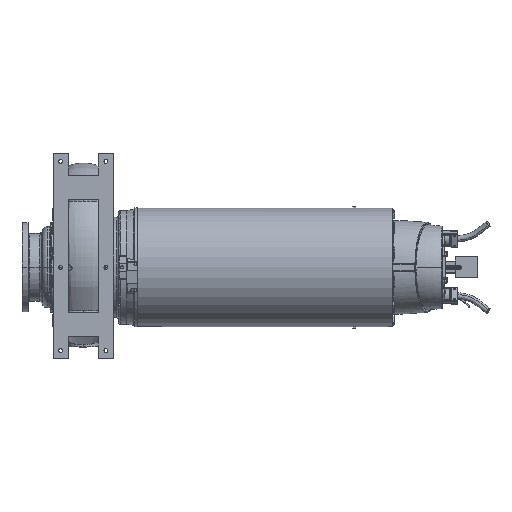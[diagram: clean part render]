
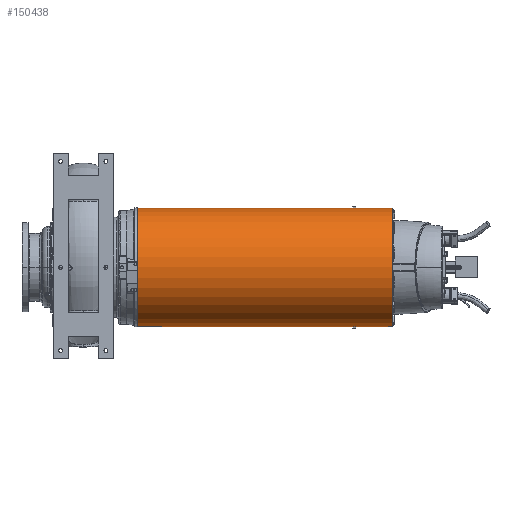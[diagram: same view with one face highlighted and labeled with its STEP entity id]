
A CAD part, front view. The second image highlights one B-rep face of the part: STEP entity #150438.
In plain terms, the highlighted cylindrical face has radius 391.5 mm (diameter 783 mm), a partial arc.
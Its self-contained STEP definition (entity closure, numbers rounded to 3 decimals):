
#7356 = FACE_OUTER_BOUND ( 'NONE', #38063, .T. ) ;
#10005 = DIRECTION ( 'NONE',  ( 0., 0., -1. ) ) ;
#12224 =( BOUNDED_CURVE ( )  B_SPLINE_CURVE ( 3, ( #15671, #179416, #13924, #13607 ),
 .UNSPECIFIED., .F., .F. ) 
 B_SPLINE_CURVE_WITH_KNOTS ( ( 4, 4 ),
 ( 1.547, 1.571 ),
 .UNSPECIFIED. ) 
 CURVE ( )  GEOMETRIC_REPRESENTATION_ITEM ( )  RATIONAL_B_SPLINE_CURVE ( ( 1., 1., 1., 1. ) ) 
 REPRESENTATION_ITEM ( '' )  );
#12711 = DIRECTION ( 'NONE',  ( -1., 0., 0. ) ) ;
#13607 = CARTESIAN_POINT ( 'NONE',  ( 1780.53, 0., -391.5 ) ) ;
#13924 = CARTESIAN_POINT ( 'NONE',  ( 1782.359, -3.167, -391.5 ) ) ;
#14438 = CARTESIAN_POINT ( 'NONE',  ( 2181.849, -9.5, -391.385 ) ) ;
#15671 = CARTESIAN_POINT ( 'NONE',  ( 1786.015, -9.5, -391.385 ) ) ;
#16206 = CARTESIAN_POINT ( 'NONE',  ( 2181.849, 0., 391.5 ) ) ;
#18934 = DIRECTION ( 'NONE',  ( -1., 0., 0. ) ) ;
#22973 = VERTEX_POINT ( 'NONE', #55178 ) ;
#26745 = EDGE_CURVE ( 'NONE', #50700, #27357, #88676, .T. ) ;
#27357 = VERTEX_POINT ( 'NONE', #250432 ) ;
#28891 = EDGE_CURVE ( 'NONE', #91911, #42572, #149285, .T. ) ;
#31915 = CARTESIAN_POINT ( 'NONE',  ( 2181.849, -9.5, 391.385 ) ) ;
#31970 = EDGE_CURVE ( 'NONE', #120751, #27357, #12224, .T. ) ;
#32008 = EDGE_CURVE ( 'NONE', #42572, #120751, #114867, .T. ) ;
#36693 = EDGE_CURVE ( 'NONE', #206291, #221980, #249379, .T. ) ;
#36915 = DIRECTION ( 'NONE',  ( 1., 0., 0. ) ) ;
#37943 = EDGE_CURVE ( 'NONE', #221980, #22973, #42613, .T. ) ;
#38063 = EDGE_LOOP ( 'NONE', ( #84324, #90762, #94091, #100549, #102899, #108876, #110668, #116795, #118699, #123960, #127608, #134852 ) ) ;
#38714 = EDGE_CURVE ( 'NONE', #22973, #210901, #61661, .T. ) ;
#40269 = EDGE_CURVE ( 'NONE', #107310, #206222, #178193, .T. ) ;
#40392 = CARTESIAN_POINT ( 'NONE',  ( 357.5, 0., 391.5 ) ) ;
#40548 = CARTESIAN_POINT ( 'NONE',  ( 2181.849, 0., 391.5 ) ) ;
#40589 = CARTESIAN_POINT ( 'NONE',  ( 2041.5, 0., -391.5 ) ) ;
#42129 = VECTOR ( 'NONE', #18934, 1000. ) ;
#42572 = VERTEX_POINT ( 'NONE', #217408 ) ;
#42613 = LINE ( 'NONE', #31915, #42129 ) ;
#43654 = LINE ( 'NONE', #76371, #43711 ) ;
#43711 = VECTOR ( 'NONE', #76695, 1000. ) ;
#46192 = EDGE_CURVE ( 'NONE', #91911, #206222, #43654, .T. ) ;
#46731 = LINE ( 'NONE', #40548, #233097 ) ;
#50278 = CARTESIAN_POINT ( 'NONE',  ( 357.5, 0., -391.5 ) ) ;
#50700 = VERTEX_POINT ( 'NONE', #50278 ) ;
#55178 = CARTESIAN_POINT ( 'NONE',  ( 1786.015, -9.5, 391.385 ) ) ;
#58671 = DIRECTION ( 'NONE',  ( 0., 0., -1. ) ) ;
#58974 = DIRECTION ( 'NONE',  ( 1., 0., 0. ) ) ;
#59217 = CARTESIAN_POINT ( 'NONE',  ( 1796.985, -9.5, -391.385 ) ) ;
#59234 = CARTESIAN_POINT ( 'NONE',  ( 2041.5, 0., 0. ) ) ;
#59533 = CARTESIAN_POINT ( 'NONE',  ( 1802.47, 0., -391.5 ) ) ;
#59778 = CARTESIAN_POINT ( 'NONE',  ( 1798.813, -6.334, -391.462 ) ) ;
#59862 = CARTESIAN_POINT ( 'NONE',  ( 1800.641, -3.167, -391.5 ) ) ;
#61661 =( BOUNDED_CURVE ( )  B_SPLINE_CURVE ( 3, ( #231321, #231892, #230689, #230491 ),
 .UNSPECIFIED., .F., .F. ) 
 B_SPLINE_CURVE_WITH_KNOTS ( ( 4, 4 ),
 ( 1.547, 1.571 ),
 .UNSPECIFIED. ) 
 CURVE ( )  GEOMETRIC_REPRESENTATION_ITEM ( )  RATIONAL_B_SPLINE_CURVE ( ( 1., 1., 1., 1. ) ) 
 REPRESENTATION_ITEM ( '' )  );
#64189 = CARTESIAN_POINT ( 'NONE',  ( 2181.849, 0., -391.5 ) ) ;
#64222 = DIRECTION ( 'NONE',  ( 1., 0., 0. ) ) ;
#76371 = CARTESIAN_POINT ( 'NONE',  ( 2181.849, 0., -391.5 ) ) ;
#76695 = DIRECTION ( 'NONE',  ( 1., 0., 0. ) ) ;
#84324 = ORIENTED_EDGE ( 'NONE', *, *, #149412, .F. ) ;
#86955 = CARTESIAN_POINT ( 'NONE',  ( 1780.53, 0., 391.5 ) ) ;
#88676 = LINE ( 'NONE', #64189, #200617 ) ;
#90762 = ORIENTED_EDGE ( 'NONE', *, *, #259002, .T. ) ;
#91911 = VERTEX_POINT ( 'NONE', #191739 ) ;
#94091 = ORIENTED_EDGE ( 'NONE', *, *, #26745, .T. ) ;
#97573 = DIRECTION ( 'NONE',  ( 0., 0., -1. ) ) ;
#100549 = ORIENTED_EDGE ( 'NONE', *, *, #31970, .F. ) ;
#100869 = LINE ( 'NONE', #16206, #155792 ) ;
#102899 = ORIENTED_EDGE ( 'NONE', *, *, #32008, .F. ) ;
#107310 = VERTEX_POINT ( 'NONE', #111586 ) ;
#108876 = ORIENTED_EDGE ( 'NONE', *, *, #28891, .F. ) ;
#109548 = AXIS2_PLACEMENT_3D ( 'NONE', #59234, #58974, #58671 ) ;
#110668 = ORIENTED_EDGE ( 'NONE', *, *, #46192, .T. ) ;
#111586 = CARTESIAN_POINT ( 'NONE',  ( 2041.5, 0., 391.5 ) ) ;
#114404 = VECTOR ( 'NONE', #12711, 1000. ) ;
#114867 = LINE ( 'NONE', #14438, #114404 ) ;
#116795 = ORIENTED_EDGE ( 'NONE', *, *, #40269, .F. ) ;
#118699 = ORIENTED_EDGE ( 'NONE', *, *, #161270, .F. ) ;
#120751 = VERTEX_POINT ( 'NONE', #140132 ) ;
#123960 = ORIENTED_EDGE ( 'NONE', *, *, #36693, .T. ) ;
#127608 = ORIENTED_EDGE ( 'NONE', *, *, #37943, .T. ) ;
#133095 = DIRECTION ( 'NONE',  ( 1., 0., 0. ) ) ;
#134227 = CIRCLE ( 'NONE', #169485, 391.5 ) ;
#134852 = ORIENTED_EDGE ( 'NONE', *, *, #38714, .T. ) ;
#135655 = DIRECTION ( 'NONE',  ( 1., 0., 0. ) ) ;
#136518 = CARTESIAN_POINT ( 'NONE',  ( 2181.849, 0., 0. ) ) ;
#140132 = CARTESIAN_POINT ( 'NONE',  ( 1786.015, -9.5, -391.385 ) ) ;
#149285 =( BOUNDED_CURVE ( )  B_SPLINE_CURVE ( 3, ( #59533, #59862, #59778, #59217 ),
 .UNSPECIFIED., .F., .F. ) 
 B_SPLINE_CURVE_WITH_KNOTS ( ( 4, 4 ),
 ( 1.571, 1.595 ),
 .UNSPECIFIED. ) 
 CURVE ( )  GEOMETRIC_REPRESENTATION_ITEM ( )  RATIONAL_B_SPLINE_CURVE ( ( 1., 1., 1., 1. ) ) 
 REPRESENTATION_ITEM ( '' )  );
#149412 = EDGE_CURVE ( 'NONE', #179610, #210901, #46731, .T. ) ;
#150438 = ADVANCED_FACE ( 'NONE', ( #7356 ), #200231, .T. ) ;
#152558 = CARTESIAN_POINT ( 'NONE',  ( 1796.985, -9.5, 391.385 ) ) ;
#155792 = VECTOR ( 'NONE', #36915, 1000. ) ;
#161270 = EDGE_CURVE ( 'NONE', #206291, #107310, #100869, .T. ) ;
#169485 = AXIS2_PLACEMENT_3D ( 'NONE', #255892, #133095, #10005 ) ;
#178193 = CIRCLE ( 'NONE', #109548, 391.5 ) ;
#179416 = CARTESIAN_POINT ( 'NONE',  ( 1784.187, -6.334, -391.462 ) ) ;
#179610 = VERTEX_POINT ( 'NONE', #40392 ) ;
#191739 = CARTESIAN_POINT ( 'NONE',  ( 1802.47, 0., -391.5 ) ) ;
#192442 = AXIS2_PLACEMENT_3D ( 'NONE', #136518, #135655, #97573 ) ;
#200231 = CYLINDRICAL_SURFACE ( 'NONE', #192442, 391.5 ) ;
#200617 = VECTOR ( 'NONE', #64222, 1000. ) ;
#206222 = VERTEX_POINT ( 'NONE', #40589 ) ;
#206291 = VERTEX_POINT ( 'NONE', #250606 ) ;
#207811 = CARTESIAN_POINT ( 'NONE',  ( 1796.985, -9.5, 391.385 ) ) ;
#208176 = CARTESIAN_POINT ( 'NONE',  ( 1802.47, 0., 391.5 ) ) ;
#209636 = CARTESIAN_POINT ( 'NONE',  ( 1800.641, -3.167, 391.5 ) ) ;
#210901 = VERTEX_POINT ( 'NONE', #86955 ) ;
#211342 = CARTESIAN_POINT ( 'NONE',  ( 1798.813, -6.334, 391.462 ) ) ;
#217408 = CARTESIAN_POINT ( 'NONE',  ( 1796.985, -9.5, -391.385 ) ) ;
#221980 = VERTEX_POINT ( 'NONE', #152558 ) ;
#230491 = CARTESIAN_POINT ( 'NONE',  ( 1780.53, 0., 391.5 ) ) ;
#230689 = CARTESIAN_POINT ( 'NONE',  ( 1782.359, -3.167, 391.5 ) ) ;
#231321 = CARTESIAN_POINT ( 'NONE',  ( 1786.015, -9.5, 391.385 ) ) ;
#231892 = CARTESIAN_POINT ( 'NONE',  ( 1784.187, -6.334, 391.462 ) ) ;
#233097 = VECTOR ( 'NONE', #244378, 1000. ) ;
#244378 = DIRECTION ( 'NONE',  ( 1., 0., 0. ) ) ;
#249379 =( BOUNDED_CURVE ( )  B_SPLINE_CURVE ( 3, ( #208176, #209636, #211342, #207811 ),
 .UNSPECIFIED., .F., .T. ) 
 B_SPLINE_CURVE_WITH_KNOTS ( ( 4, 4 ),
 ( 1.571, 1.595 ),
 .UNSPECIFIED. ) 
 CURVE ( )  GEOMETRIC_REPRESENTATION_ITEM ( )  RATIONAL_B_SPLINE_CURVE ( ( 1., 1., 1., 1. ) ) 
 REPRESENTATION_ITEM ( '' )  );
#250432 = CARTESIAN_POINT ( 'NONE',  ( 1780.53, 0., -391.5 ) ) ;
#250606 = CARTESIAN_POINT ( 'NONE',  ( 1802.47, 0., 391.5 ) ) ;
#255892 = CARTESIAN_POINT ( 'NONE',  ( 357.5, 0., 0. ) ) ;
#259002 = EDGE_CURVE ( 'NONE', #179610, #50700, #134227, .T. ) ;
